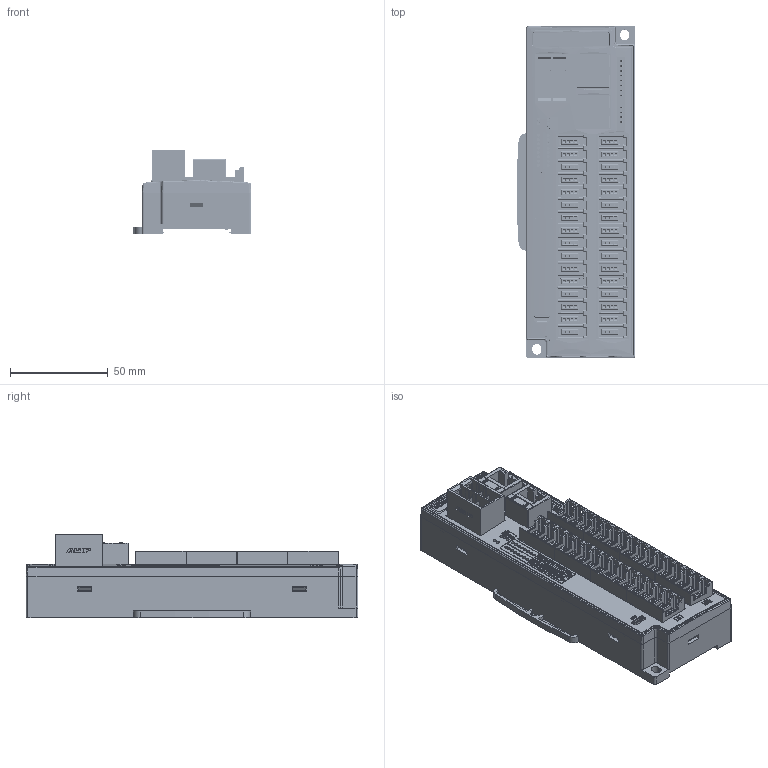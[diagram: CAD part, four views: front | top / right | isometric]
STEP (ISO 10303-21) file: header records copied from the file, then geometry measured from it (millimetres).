
FILE_DESCRIPTION((''),'2;1');
FILE_NAME('EIEPFF','2026-05-11T16:36:04',('gijyu181'),(''),'CREO PARAMETRIC BY PTC INC, 2018050','CREO PARAMETRIC BY PTC INC, 2018050','');
FILE_SCHEMA(('CONFIG_CONTROL_DESIGN','SHAPE_APPEARANCE_LAYERS_GROUPS'));
Products named in the file (1): EIEPFF
Bounding box: 60.87 x 170 x 42.6 mm (x, y, z)
Volume: 222761.8 mm3; surface area: 91350.9 mm2
Topology: 4 solids, 101 shells, 12558 faces, 35211 edges, 23502 vertices
Faces by surface type: plane 9411, extrusion 1738, cylinder 1306, cone 41, bspline 37, torus 21, sphere 4
Entity records: 507092 total; most frequent: CARTESIAN_POINT 110486, ORIENTED_EDGE 70422, DIRECTION 57218, EDGE_CURVE 35211, VECTOR 29380, LINE 27642, VERTEX_POINT 23502, AXIS2_PLACEMENT_3D 13919
